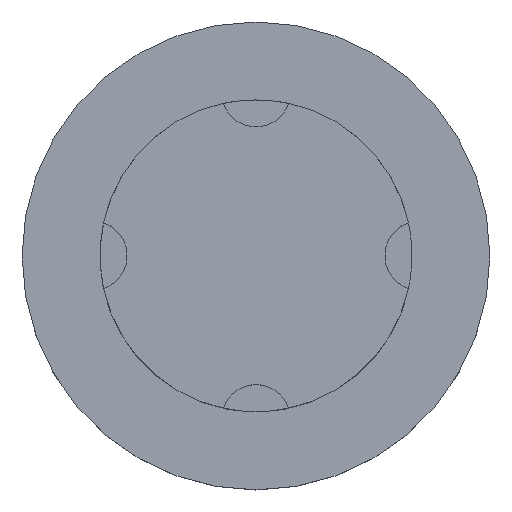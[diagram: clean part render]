
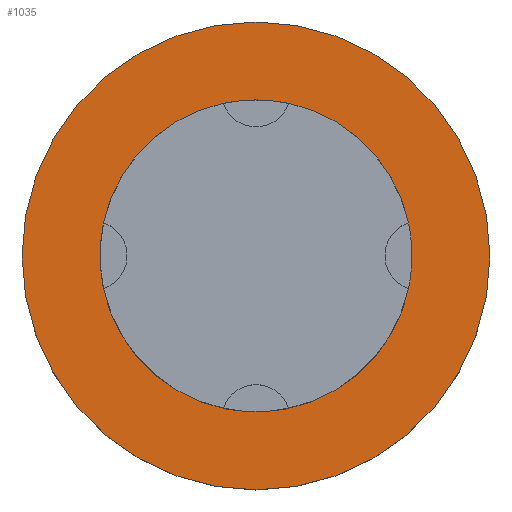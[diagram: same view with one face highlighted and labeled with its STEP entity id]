
A CAD part, top view. The second image highlights one B-rep face of the part: STEP entity #1035.
In plain terms, the highlighted planar face has unit normal (0, 0, 1).
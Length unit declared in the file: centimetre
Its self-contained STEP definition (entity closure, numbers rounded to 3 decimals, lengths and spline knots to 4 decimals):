
#280=VERTEX_POINT('',#1453);
#351=VERTEX_POINT('',#1704);
#364=CIRCLE('',#1057,2.8575);
#408=CIRCLE('',#1146,4.2863);
#429=EDGE_CURVE('',#280,#280,#364,.T.);
#548=EDGE_CURVE('',#351,#351,#408,.T.);
#827=ORIENTED_EDGE('',*,*,#429,.T.);
#828=ORIENTED_EDGE('',*,*,#548,.T.);
#899=EDGE_LOOP('',(#827));
#900=EDGE_LOOP('',(#828));
#971=FACE_BOUND('',#899,.T.);
#972=FACE_BOUND('',#900,.T.);
#1035=ADVANCED_FACE('',(#971,#972),#1737,.T.);
#1057=AXIS2_PLACEMENT_3D('',#1452,#1195,#1196);
#1146=AXIS2_PLACEMENT_3D('',#1703,#1403,#1404);
#1148=AXIS2_PLACEMENT_3D('',#1706,#1406,$);
#1195=DIRECTION('',(0.,0.,-1.));
#1196=DIRECTION('',(2.858,0.,0.));
#1403=DIRECTION('',(0.,0.,1.));
#1404=DIRECTION('',(4.286,0.,0.));
#1406=DIRECTION('',(0.,0.,1.));
#1452=CARTESIAN_POINT('',(0.,0.,0.));
#1453=CARTESIAN_POINT('',(2.8575,0.,0.));
#1703=CARTESIAN_POINT('',(0.,0.,0.));
#1704=CARTESIAN_POINT('',(4.2863,0.,0.));
#1706=CARTESIAN_POINT('',(0.,0.,0.));
#1737=PLANE('',#1148);
